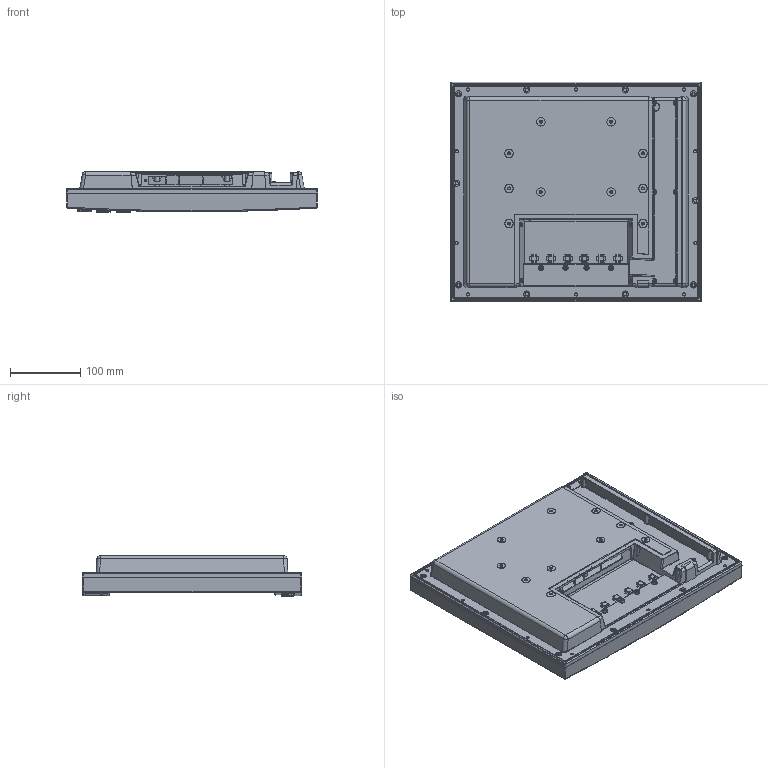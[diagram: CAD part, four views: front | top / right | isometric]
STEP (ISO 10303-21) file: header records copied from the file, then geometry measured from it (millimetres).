
FILE_DESCRIPTION (( 'STEP AP203' ), '1' );
FILE_NAME ('extern3d_12-200-151_TAE151_20100416.STEP', '2010-04-16T09:46:21', ( 'Anwender' ), ( 'SIGMATEK GMBH & CO KG' ), 'SwSTEP 2.0', 'SolidWorks 2009', '' );
FILE_SCHEMA (( 'CONFIG_CONTROL_DESIGN' ));
Products named in the file (1): extern3d_12-200-151_TAE151_20100416
Bounding box: 358 x 313 x 59.28 mm (x, y, z)
Volume: 3048393 mm3; surface area: 703806.3 mm2
Topology: 6 solids, 37 shells, 4169 faces, 10466 edges, 6418 vertices
Faces by surface type: plane 1472, cylinder 1349, bspline 672, cone 358, torus 204, sphere 114
Entity records: 167802 total; most frequent: CARTESIAN_POINT 76080, ORIENTED_EDGE 20754, DIRECTION 17099, EDGE_CURVE 10377, VERTEX_POINT 6415, AXIS2_PLACEMENT_3D 6018, LINE 5063, VECTOR 5063
